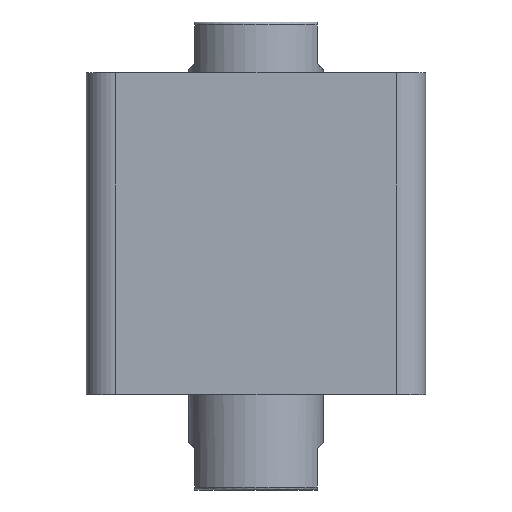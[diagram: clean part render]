
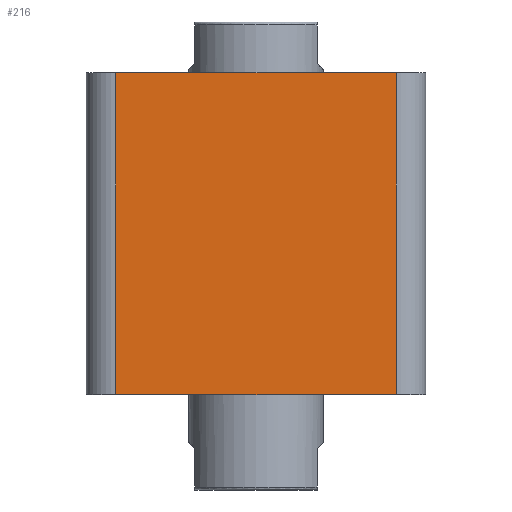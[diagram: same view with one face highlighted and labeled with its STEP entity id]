
A CAD part, front view. The second image highlights one B-rep face of the part: STEP entity #216.
In plain terms, the highlighted planar face has unit normal (0, -1, 0).
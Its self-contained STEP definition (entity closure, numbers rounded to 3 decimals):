
#216 = ADVANCED_FACE ( 'NONE', ( #1762 ), #352, .F. ) ;
#266 = EDGE_CURVE ( 'NONE', #3075, #3064, #1832, .T. ) ;
#267 = EDGE_CURVE ( 'NONE', #3064, #3061, #1826, .T. ) ;
#268 = EDGE_CURVE ( 'NONE', #3062, #3061, #1836, .T. ) ;
#269 = EDGE_CURVE ( 'NONE', #3062, #3075, #1838, .T. ) ;
#339 = CARTESIAN_POINT ( 'NONE',  ( -57., -57., 108. ) ) ;
#348 = DIRECTION ( 'NONE',  ( 0., 0., 1. ) ) ;
#350 = DIRECTION ( 'NONE',  ( 0., 1., 0. ) ) ;
#352 = PLANE ( 'NONE',  #2089 ) ;
#702 = CARTESIAN_POINT ( 'NONE',  ( 47., -57., 108. ) ) ;
#708 = CARTESIAN_POINT ( 'NONE',  ( -47., -57., 108. ) ) ;
#710 = CARTESIAN_POINT ( 'NONE',  ( 47., -57., 0. ) ) ;
#721 = CARTESIAN_POINT ( 'NONE',  ( -47., -57., 0. ) ) ;
#1332 = ORIENTED_EDGE ( 'NONE', *, *, #269, .T. ) ;
#1334 = ORIENTED_EDGE ( 'NONE', *, *, #267, .T. ) ;
#1335 = ORIENTED_EDGE ( 'NONE', *, *, #268, .F. ) ;
#1336 = ORIENTED_EDGE ( 'NONE', *, *, #266, .T. ) ;
#1528 = EDGE_LOOP ( 'NONE', ( #1336, #1334, #1335, #1332 ) ) ;
#1762 = FACE_OUTER_BOUND ( 'NONE', #1528, .T. ) ;
#1826 = LINE ( 'NONE', #2473, #1837 ) ;
#1832 = LINE ( 'NONE', #2508, #1835 ) ;
#1835 = VECTOR ( 'NONE', #2510, 1000. ) ;
#1836 = LINE ( 'NONE', #2512, #1839 ) ;
#1837 = VECTOR ( 'NONE', #2511, 1000. ) ;
#1838 = LINE ( 'NONE', #2514, #1841 ) ;
#1839 = VECTOR ( 'NONE', #2513, 1000. ) ;
#1841 = VECTOR ( 'NONE', #2515, 1000. ) ;
#2089 = AXIS2_PLACEMENT_3D ( 'NONE', #339, #350, #348 ) ;
#2473 = CARTESIAN_POINT ( 'NONE',  ( 47., -57., 108. ) ) ;
#2508 = CARTESIAN_POINT ( 'NONE',  ( -57., -57., 0. ) ) ;
#2510 = DIRECTION ( 'NONE',  ( 1., 0., 0. ) ) ;
#2511 = DIRECTION ( 'NONE',  ( 0., 0., 1. ) ) ;
#2512 = CARTESIAN_POINT ( 'NONE',  ( -57., -57., 108. ) ) ;
#2513 = DIRECTION ( 'NONE',  ( 1., 0., 0. ) ) ;
#2514 = CARTESIAN_POINT ( 'NONE',  ( -47., -57., 108. ) ) ;
#2515 = DIRECTION ( 'NONE',  ( 0., 0., -1. ) ) ;
#3061 = VERTEX_POINT ( 'NONE', #702 ) ;
#3062 = VERTEX_POINT ( 'NONE', #708 ) ;
#3064 = VERTEX_POINT ( 'NONE', #710 ) ;
#3075 = VERTEX_POINT ( 'NONE', #721 ) ;
